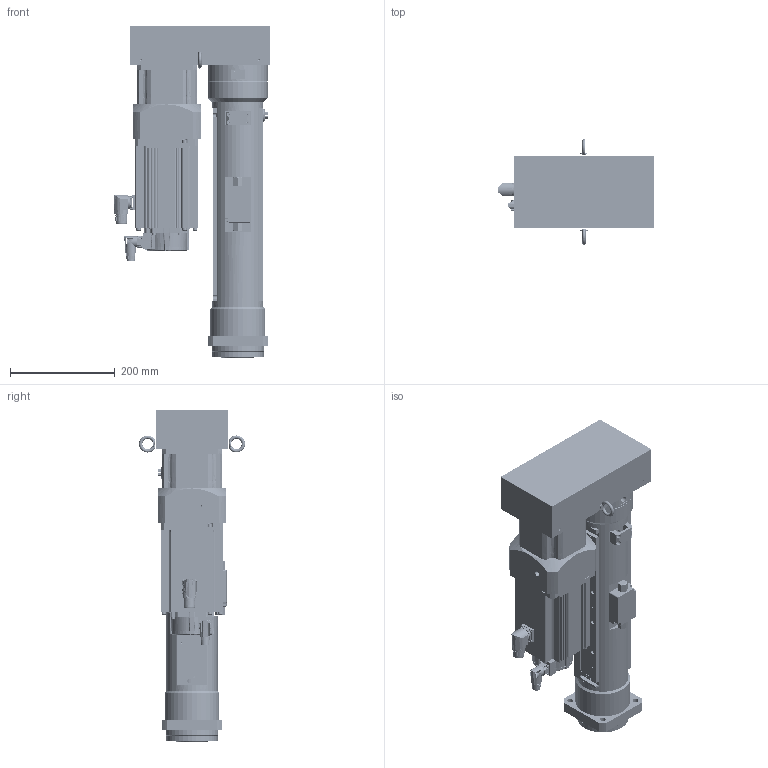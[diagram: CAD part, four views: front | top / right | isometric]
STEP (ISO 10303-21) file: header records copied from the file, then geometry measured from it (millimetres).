
FILE_DESCRIPTION( ('This file contains a STEP AP42 implementation' ,'as created by ZW3D STEP Interface translator.') ,'2;1' );
FILE_NAME( 'OACIS-P025-P030-300-215-A6V400_ASM_20.01.stp' ,'25 715.135929', (''), ('ZWCAD Software Co.'), 'Version 1.0', 'ZW3D to STEP translator', '' );
FILE_SCHEMA(('AUTOMOTIVE_DESIGN { 1 0 10303 214 1 1 1 1 }'));
Length unit declared in the file: millimetre
Products named in the file (2): 0; OACIS-P025-P030-300-215-A6V400_ASM_20.01
Bounding box: 299.5 x 202.6 x 635 mm (x, y, z)
Volume: 8497056.7 mm3; surface area: 1388996.1 mm2
Topology: 38 solids, 46 shells, 2742 faces, 7050 edges, 4658 vertices
Faces by surface type: plane 1232, cylinder 972, cone 280, bspline 134, torus 104, sphere 20
Full cylindrical faces by diameter (mm): 1.25 x12, 1.6 x8, 2.232 x6, 2.459 x1, 2.75 x4, 2.8 x1, 3.242 x10, 3.3 x94, 4 x8, 4.134 x14, 4.2 x4, 4.3 x30, 4.5 x4, 5 x32, 5.5 x9, 6 x4, 6.8 x42, 7 x12, 8 x38, 8.4 x8, 8.5 x35, 9 x4, 9.5 x4, 10 x8, 11 x4, 12 x1, 13.4 x1, 15 x8, 15.5 x2, 15.54 x1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
Entity records: 94061 total; most frequent: CARTESIAN_POINT 23985, DIRECTION 14128, ORIENTED_EDGE 13791, EDGE_CURVE 6945, AXIS2_PLACEMENT_3D 5308, VERTEX_POINT 4592, VECTOR 3512, LINE 3512
